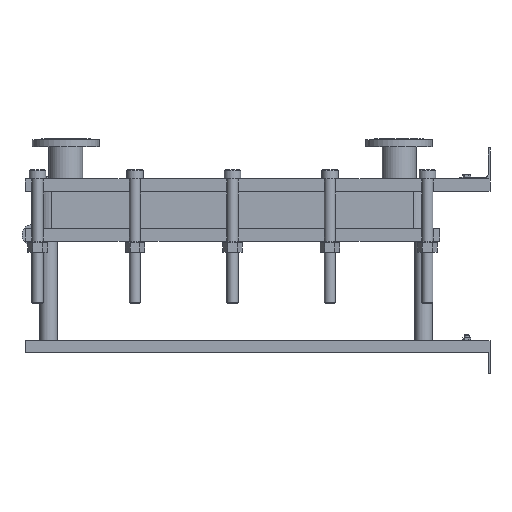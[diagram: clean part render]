
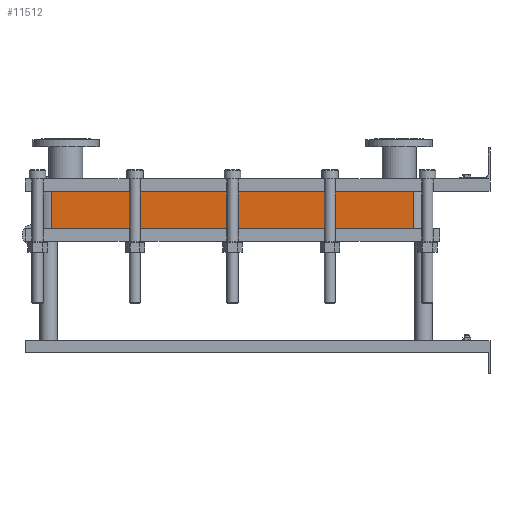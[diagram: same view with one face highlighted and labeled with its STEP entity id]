
A CAD part, left-side view. The second image highlights one B-rep face of the part: STEP entity #11512.
In plain terms, the highlighted planar face has unit normal (-1, 0, 0).
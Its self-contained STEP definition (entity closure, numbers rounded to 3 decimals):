
#1129=LINE('',#23232,#2102);
#1130=LINE('',#23236,#2103);
#1131=LINE('',#23238,#2104);
#1132=LINE('',#23239,#2105);
#2102=VECTOR('',#15887,10.);
#2103=VECTOR('',#15892,10.);
#2104=VECTOR('',#15893,10.);
#2105=VECTOR('',#15894,10.);
#3267=FACE_OUTER_BOUND('',#4093,.T.);
#4093=EDGE_LOOP('',(#10103,#10104,#10105,#10106));
#5642=VERTEX_POINT('',#23229);
#5643=VERTEX_POINT('',#23231);
#5644=VERTEX_POINT('',#23235);
#5645=VERTEX_POINT('',#23237);
#7159=EDGE_CURVE('',#5643,#5642,#1129,.T.);
#7161=EDGE_CURVE('',#5642,#5644,#1130,.T.);
#7162=EDGE_CURVE('',#5645,#5644,#1131,.T.);
#7163=EDGE_CURVE('',#5645,#5643,#1132,.T.);
#10103=ORIENTED_EDGE('',*,*,#7161,.T.);
#10104=ORIENTED_EDGE('',*,*,#7162,.F.);
#10105=ORIENTED_EDGE('',*,*,#7163,.T.);
#10106=ORIENTED_EDGE('',*,*,#7159,.T.);
#10857=PLANE('',#12751);
#11512=ADVANCED_FACE('',(#3267),#10857,.T.);
#12751=AXIS2_PLACEMENT_3D('',#23234,#15890,#15891);
#15887=DIRECTION('',(0.,0.,-1.));
#15890=DIRECTION('center_axis',(-1.,0.,0.));
#15891=DIRECTION('ref_axis',(0.,1.,0.));
#15892=DIRECTION('',(0.,-1.,0.));
#15893=DIRECTION('',(0.,0.,-1.));
#15894=DIRECTION('',(0.,1.,0.));
#23229=CARTESIAN_POINT('',(-200.,1414.,-120.75));
#23231=CARTESIAN_POINT('',(-200.,1414.,0.));
#23232=CARTESIAN_POINT('',(-200.,1414.,0.));
#23234=CARTESIAN_POINT('Origin',(-200.,248.,0.));
#23235=CARTESIAN_POINT('',(-200.,248.,-120.75));
#23236=CARTESIAN_POINT('',(-200.,539.5,-120.75));
#23237=CARTESIAN_POINT('',(-200.,248.,0.));
#23238=CARTESIAN_POINT('',(-200.,248.,0.));
#23239=CARTESIAN_POINT('',(-200.,248.,0.));
